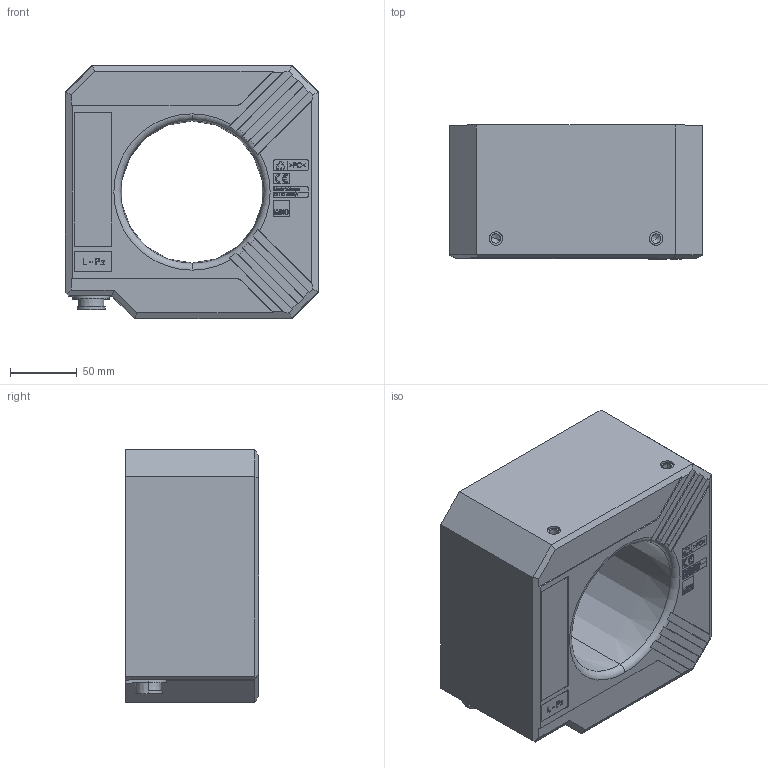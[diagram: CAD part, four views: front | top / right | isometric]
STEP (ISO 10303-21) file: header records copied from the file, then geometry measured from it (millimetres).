
FILE_DESCRIPTION (( 'STEP AP214' ), '1' );
FILE_NAME ('ASG_106_kpl.STEP', '2011-11-21T10:01:26', ( ' ' ), ( '' ), 'SwSTEP 2.0', 'SolidWorks 2010', '' );
FILE_SCHEMA (( 'AUTOMOTIVE_DESIGN' ));
Length unit declared in the file: millimetre
Products named in the file (4): ASG106_Kabeldurchführung_01; ASG_106_01_Bauhöhe_100mm; Gewindebuchse_Stoll_M8_DIN16903_STN26; ASG_106_kpl
Assembly tree (4 placements, depth 2):
  ASG_106_kpl
    ASG_106_01_Bauhöhe_100mm
    Gewindebuchse_Stoll_M8_DIN16903_STN26  x2
    ASG106_Kabeldurchführung_01
Bounding box: 189.7 x 100.06 x 189.7 mm (x, y, z)
Volume: 2539755 mm3; surface area: 162852 mm2
Topology: 4 solids, 4 shells, 842 faces, 2155 edges, 1405 vertices
Faces by surface type: plane 506, bspline 142, cone 113, cylinder 67, torus 14
Entity records: 32231 total; most frequent: CARTESIAN_POINT 13258, ORIENTED_EDGE 4138, DIRECTION 3354, EDGE_CURVE 2069, LINE 1424, VECTOR 1424, VERTEX_POINT 1360, AXIS2_PLACEMENT_3D 965
